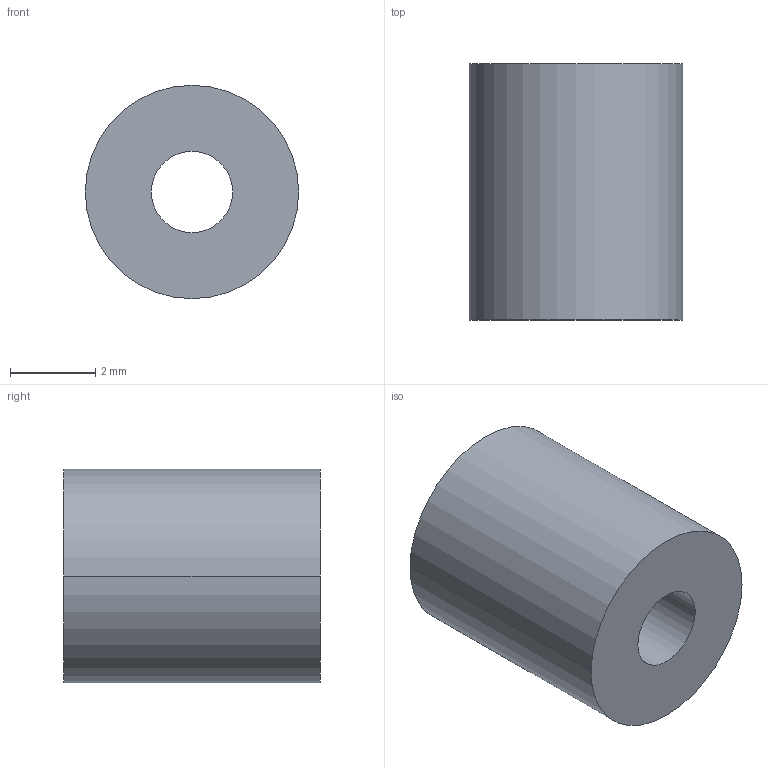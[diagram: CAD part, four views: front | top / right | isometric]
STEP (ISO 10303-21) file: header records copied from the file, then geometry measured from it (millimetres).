
FILE_DESCRIPTION (( 'STEP AP203' ), '1' );
FILE_NAME ('30800.WPP5A1.9.step', '2019-01-23T22:15:29', ( '' ), ( '' ), 'SwSTEP 2.0', 'SolidWorks 2017', '' );
FILE_SCHEMA (( 'CONFIG_CONTROL_DESIGN' ));
Length unit declared in the file: millimetre
Products named in the file (1): 30800.WPP5A1.9
Bounding box: 5 x 6 x 5 mm (x, y, z)
Volume: 99.2 mm3; surface area: 161.5 mm2
Topology: 1 solids, 1 shells, 8 faces, 16 edges, 10 vertices
Faces by surface type: cylinder 4, torus 2, plane 2
Entity records: 297 total; most frequent: DIRECTION 46, CARTESIAN_POINT 35, ORIENTED_EDGE 32, AXIS2_PLACEMENT_3D 21, EDGE_CURVE 16, CIRCLE 12, VERTEX_POINT 10, EDGE_LOOP 10
